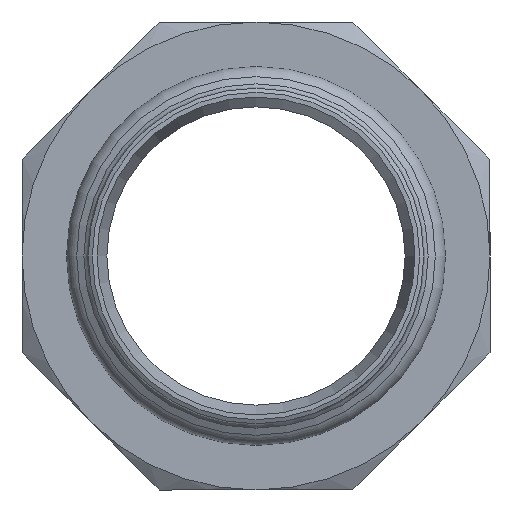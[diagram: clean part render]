
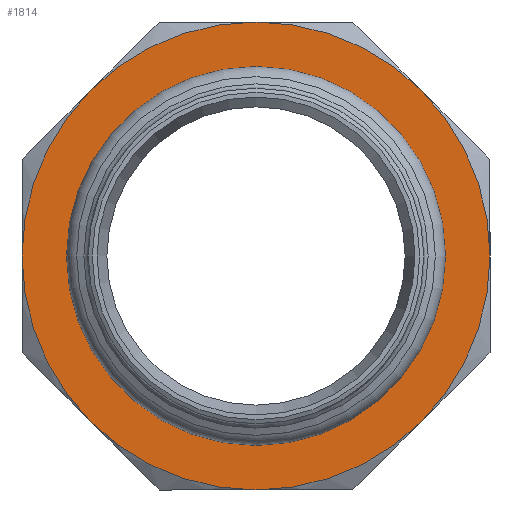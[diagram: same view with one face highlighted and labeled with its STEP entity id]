
A CAD part, left-side view. The second image highlights one B-rep face of the part: STEP entity #1814.
In plain terms, the highlighted planar face has unit normal (-1, 0, 0) as drawn and (0, 0, -1) by its records, which use the part's own axes.
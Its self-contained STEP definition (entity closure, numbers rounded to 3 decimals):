
#1230=CARTESIAN_POINT('',(28.284,28.284,-29.));
#1231=VERTEX_POINT('',#1230);
#1245=CARTESIAN_POINT('',(40.,0.,-29.));
#1246=VERTEX_POINT('',#1245);
#1260=CARTESIAN_POINT('',(0.0,0.0,-29.));
#1261=DIRECTION('',(0.0,0.0,-1.0));
#1262=DIRECTION('',(0.0,-1.0,0.0));
#1263=AXIS2_PLACEMENT_3D('',#1260,#1261,#1262);
#1264=CIRCLE('',#1263,40.);
#1265=EDGE_CURVE('',#1231,#1246,#1264,.T.);
#1277=CARTESIAN_POINT('',(0.,40.,-29.));
#1278=VERTEX_POINT('',#1277);
#1305=CARTESIAN_POINT('',(0.0,0.0,-29.));
#1306=DIRECTION('',(0.0,0.0,-1.0));
#1307=DIRECTION('',(0.0,-1.0,0.0));
#1308=AXIS2_PLACEMENT_3D('',#1305,#1306,#1307);
#1309=CIRCLE('',#1308,40.);
#1310=EDGE_CURVE('',#1278,#1231,#1309,.T.);
#1322=CARTESIAN_POINT('',(-28.284,28.284,-29.));
#1323=VERTEX_POINT('',#1322);
#1350=CARTESIAN_POINT('',(0.0,0.0,-29.));
#1351=DIRECTION('',(0.0,0.0,-1.0));
#1352=DIRECTION('',(0.0,-1.0,0.0));
#1353=AXIS2_PLACEMENT_3D('',#1350,#1351,#1352);
#1354=CIRCLE('',#1353,40.);
#1355=EDGE_CURVE('',#1323,#1278,#1354,.T.);
#1380=CARTESIAN_POINT('',(-40.,0.,-29.));
#1381=VERTEX_POINT('',#1380);
#1382=CARTESIAN_POINT('',(0.0,0.0,-29.));
#1383=DIRECTION('',(0.0,0.0,-1.0));
#1384=DIRECTION('',(0.0,-1.0,0.0));
#1385=AXIS2_PLACEMENT_3D('',#1382,#1383,#1384);
#1386=CIRCLE('',#1385,40.);
#1387=EDGE_CURVE('',#1381,#1323,#1386,.T.);
#1425=CARTESIAN_POINT('',(-28.284,-28.284,-29.));
#1426=VERTEX_POINT('',#1425);
#1427=CARTESIAN_POINT('',(0.0,0.0,-29.));
#1428=DIRECTION('',(0.0,0.0,-1.0));
#1429=DIRECTION('',(0.0,-1.0,0.0));
#1430=AXIS2_PLACEMENT_3D('',#1427,#1428,#1429);
#1431=CIRCLE('',#1430,40.);
#1432=EDGE_CURVE('',#1426,#1381,#1431,.T.);
#1470=CARTESIAN_POINT('',(0.0,-40.,-29.));
#1471=VERTEX_POINT('',#1470);
#1472=CARTESIAN_POINT('',(0.0,0.0,-29.));
#1473=DIRECTION('',(0.0,0.0,-1.0));
#1474=DIRECTION('',(0.0,-1.0,0.0));
#1475=AXIS2_PLACEMENT_3D('',#1472,#1473,#1474);
#1476=CIRCLE('',#1475,40.);
#1477=EDGE_CURVE('',#1471,#1426,#1476,.T.);
#1515=CARTESIAN_POINT('',(28.284,-28.284,-29.));
#1516=VERTEX_POINT('',#1515);
#1517=CARTESIAN_POINT('',(0.0,0.0,-29.));
#1518=DIRECTION('',(0.0,0.0,-1.0));
#1519=DIRECTION('',(0.0,-1.0,0.0));
#1520=AXIS2_PLACEMENT_3D('',#1517,#1518,#1519);
#1521=CIRCLE('',#1520,40.);
#1522=EDGE_CURVE('',#1516,#1471,#1521,.T.);
#1560=CARTESIAN_POINT('',(0.0,0.0,-29.));
#1561=DIRECTION('',(0.0,0.0,-1.0));
#1562=DIRECTION('',(0.0,-1.0,0.0));
#1563=AXIS2_PLACEMENT_3D('',#1560,#1561,#1562);
#1564=CIRCLE('',#1563,40.);
#1565=EDGE_CURVE('',#1246,#1516,#1564,.T.);
#1713=CARTESIAN_POINT('',(-30.0,0.,-29.));
#1714=VERTEX_POINT('',#1713);
#1715=CARTESIAN_POINT('',(0.0,0.0,-29.));
#1716=DIRECTION('',(0.0,0.0,1.0));
#1717=DIRECTION('',(1.0,0.0,0.0));
#1718=AXIS2_PLACEMENT_3D('',#1715,#1716,#1717);
#1719=CIRCLE('',#1718,30.0);
#1720=EDGE_CURVE('',#1714,#1714,#1719,.T.);
#1796=CARTESIAN_POINT('',(0.,0.,-29.));
#1797=DIRECTION('',(0.0,0.0,1.0));
#1798=DIRECTION('',(1.0,0.0,0.0));
#1799=AXIS2_PLACEMENT_3D('',#1796,#1797,#1798);
#1800=PLANE('',#1799);
#1801=ORIENTED_EDGE('',*,*,#1565,.T.);
#1802=ORIENTED_EDGE('',*,*,#1522,.T.);
#1803=ORIENTED_EDGE('',*,*,#1477,.T.);
#1804=ORIENTED_EDGE('',*,*,#1432,.T.);
#1805=ORIENTED_EDGE('',*,*,#1387,.T.);
#1806=ORIENTED_EDGE('',*,*,#1355,.T.);
#1807=ORIENTED_EDGE('',*,*,#1310,.T.);
#1808=ORIENTED_EDGE('',*,*,#1265,.T.);
#1809=EDGE_LOOP('',(#1801,#1802,#1803,#1804,#1805,#1806,#1807,#1808));
#1810=FACE_OUTER_BOUND('',#1809,.T.);
#1811=ORIENTED_EDGE('',*,*,#1720,.T.);
#1812=EDGE_LOOP('',(#1811));
#1813=FACE_BOUND('',#1812,.T.);
#1814=ADVANCED_FACE('',(#1810,#1813),#1800,.F.);
